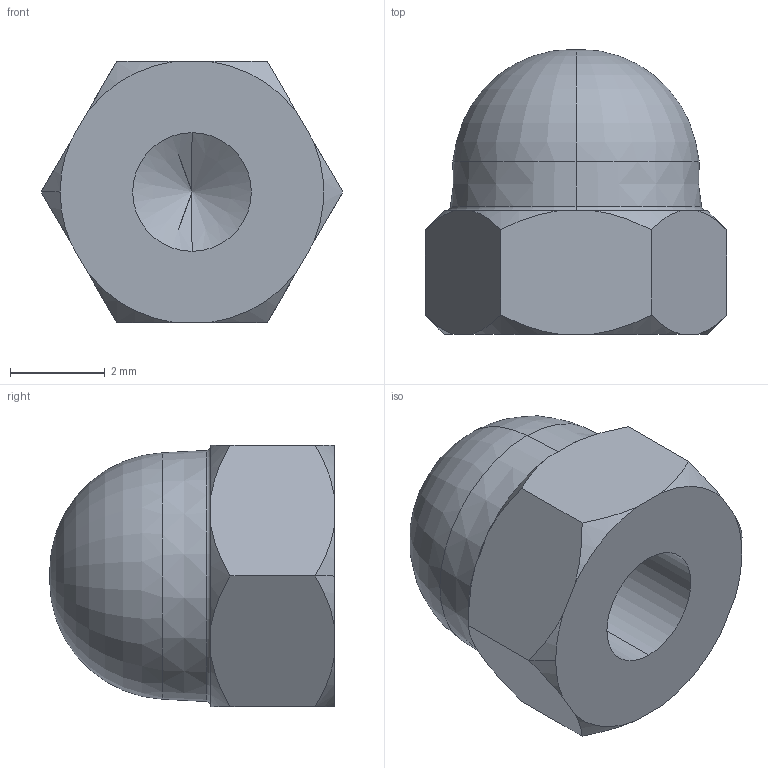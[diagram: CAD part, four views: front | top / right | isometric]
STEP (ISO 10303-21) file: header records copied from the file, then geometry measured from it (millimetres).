
FILE_DESCRIPTION (( 'STEP AP203' ), '1' );
FILE_NAME ('SAGOTOOL.P.TAN_BAU_M3.STEP', '2026-07-09T03:10:24', ( '' ), ( '' ), 'SwSTEP 2.0', 'SolidWorks 2020', '' );
FILE_SCHEMA (( 'CONFIG_CONTROL_DESIGN' ));
Length unit declared in the file: millimetre
Products named in the file (1): SAGOTOOL.P.TAN_BAU_M3
Bounding box: 6.35 x 6 x 5.5 mm (x, y, z)
Volume: 98.2 mm3; surface area: 171.4 mm2
Topology: 1 solids, 1 shells, 33 faces, 82 edges, 51 vertices
Faces by surface type: cone 18, plane 9, torus 4, cylinder 2
Entity records: 1117 total; most frequent: CARTESIAN_POINT 285, ORIENTED_EDGE 160, DIRECTION 154, EDGE_CURVE 80, AXIS2_PLACEMENT_3D 64, VERTEX_POINT 51, EDGE_LOOP 35, ADVANCED_FACE 33
